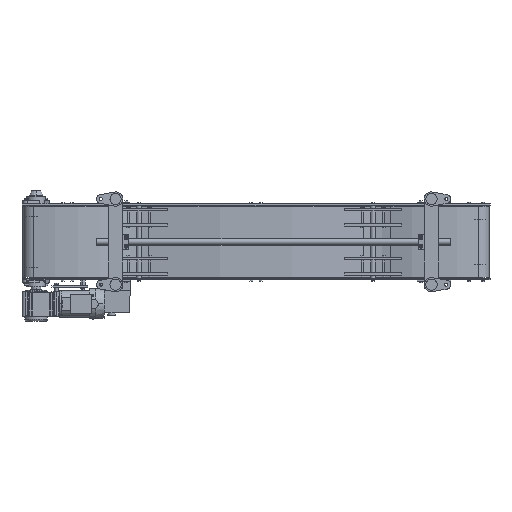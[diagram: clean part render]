
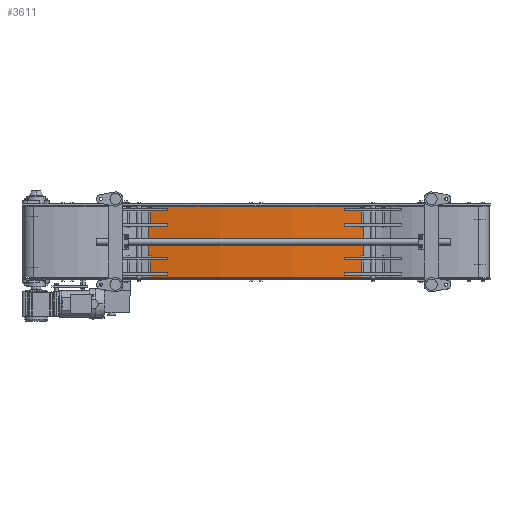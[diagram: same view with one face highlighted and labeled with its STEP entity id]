
A CAD part, front view. The second image highlights one B-rep face of the part: STEP entity #3611.
In plain terms, the highlighted cylindrical face has radius 2516 mm (diameter 5032 mm), a partial arc.
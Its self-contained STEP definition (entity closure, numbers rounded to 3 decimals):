
#185 = VERTEX_POINT ( 'NONE', #36753 ) ;
#733 = CARTESIAN_POINT ( 'NONE',  ( 1000., 2400.096, 152. ) ) ;
#946 = EDGE_CURVE ( 'NONE', #17484, #185, #12107, .T. ) ;
#1665 = EDGE_CURVE ( 'NONE', #17484, #56574, #44199, .T. ) ;
#3611 = ADVANCED_FACE ( 'NONE', ( #53715 ), #17405, .T. ) ;
#3638 = CARTESIAN_POINT ( 'NONE',  ( 1458.121, -73.845, 152. ) ) ;
#3665 = VECTOR ( 'NONE', #41508, 1000. ) ;
#4390 = CIRCLE ( 'NONE', #22640, 2516. ) ;
#6753 = AXIS2_PLACEMENT_3D ( 'NONE', #733, #27497, #27098 ) ;
#8015 = ORIENTED_EDGE ( 'NONE', *, *, #29024, .T. ) ;
#8028 = DIRECTION ( 'NONE',  ( -1., 0., 0. ) ) ;
#12107 = LINE ( 'NONE', #20773, #54782 ) ;
#13928 = AXIS2_PLACEMENT_3D ( 'NONE', #52257, #30351, #8028 ) ;
#14113 = CARTESIAN_POINT ( 'NONE',  ( 1458.121, -73.845, -152. ) ) ;
#17405 = CYLINDRICAL_SURFACE ( 'NONE', #13928, 2516. ) ;
#17484 = VERTEX_POINT ( 'NONE', #55278 ) ;
#17986 = CARTESIAN_POINT ( 'NONE',  ( 1000., 2400.096, -152. ) ) ;
#20773 = CARTESIAN_POINT ( 'NONE',  ( 541.879, -73.845, 152. ) ) ;
#21039 = VERTEX_POINT ( 'NONE', #14113 ) ;
#22640 = AXIS2_PLACEMENT_3D ( 'NONE', #17986, #49649, #27342 ) ;
#25484 = ORIENTED_EDGE ( 'NONE', *, *, #1665, .F. ) ;
#27098 = DIRECTION ( 'NONE',  ( 1., 0., 0. ) ) ;
#27342 = DIRECTION ( 'NONE',  ( 1., 0., 0. ) ) ;
#27497 = DIRECTION ( 'NONE',  ( 0., 0., 1. ) ) ;
#29024 = EDGE_CURVE ( 'NONE', #185, #21039, #4390, .T. ) ;
#29199 = EDGE_CURVE ( 'NONE', #56574, #21039, #39328, .T. ) ;
#30351 = DIRECTION ( 'NONE',  ( 0., 0., -1. ) ) ;
#36753 = CARTESIAN_POINT ( 'NONE',  ( 541.879, -73.845, -152. ) ) ;
#39328 = LINE ( 'NONE', #50340, #3665 ) ;
#39519 = ORIENTED_EDGE ( 'NONE', *, *, #946, .T. ) ;
#41508 = DIRECTION ( 'NONE',  ( 0., 0., -1. ) ) ;
#44199 = CIRCLE ( 'NONE', #6753, 2516. ) ;
#46374 = ORIENTED_EDGE ( 'NONE', *, *, #29199, .F. ) ;
#49649 = DIRECTION ( 'NONE',  ( 0., 0., 1. ) ) ;
#50340 = CARTESIAN_POINT ( 'NONE',  ( 1458.121, -73.845, 152. ) ) ;
#51096 = EDGE_LOOP ( 'NONE', ( #8015, #46374, #25484, #39519 ) ) ;
#52257 = CARTESIAN_POINT ( 'NONE',  ( 1000., 2400.096, 152. ) ) ;
#53715 = FACE_OUTER_BOUND ( 'NONE', #51096, .T. ) ;
#54782 = VECTOR ( 'NONE', #56158, 1000. ) ;
#55278 = CARTESIAN_POINT ( 'NONE',  ( 541.879, -73.845, 152. ) ) ;
#56158 = DIRECTION ( 'NONE',  ( 0., 0., -1. ) ) ;
#56574 = VERTEX_POINT ( 'NONE', #3638 ) ;
